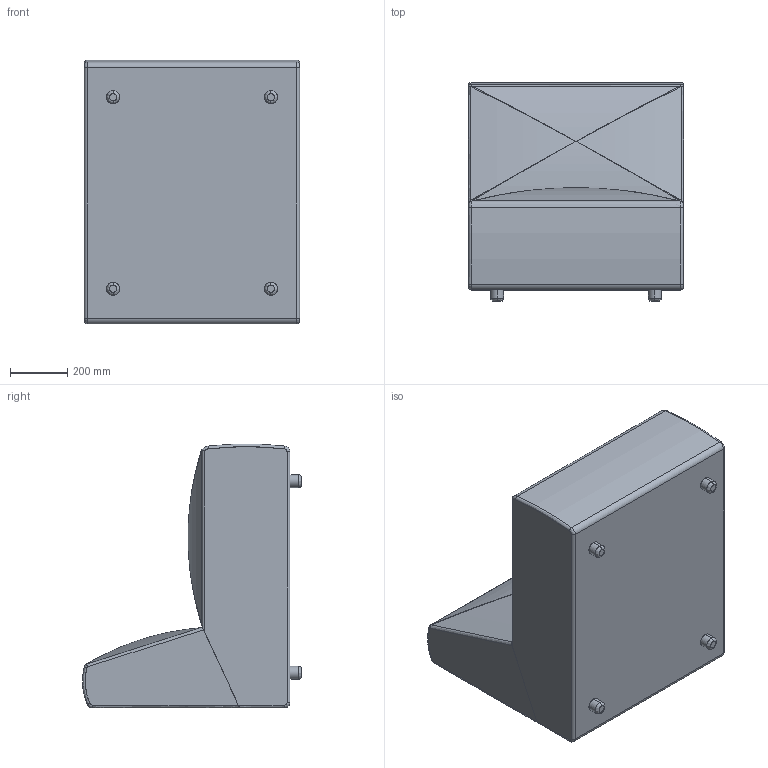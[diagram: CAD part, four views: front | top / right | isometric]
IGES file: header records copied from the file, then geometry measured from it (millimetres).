
Start section: SolidWorks IGES file using analytic representation for surfaces
Global section: file name: \\Logicserver\datos\01-VICCARBE\PRODUCTOS\53-SISTEMA\04-MODELADOS (PLANOS)\WEB\viccarbe-sistema-3D\Modulos\Modulo medio grueso.IGS; native system: SolidWorks 2013; preprocessor: SolidWorks 2013; author: bdisenyo; date: 170120.111722; units: millimetre
Bounding box: 750 x 762.5 x 919.18 mm (x, y, z)
Surface area: 3550993.6 mm2 (no closed solid volume)
Topology: 0 solids, 0 shells, 80 faces, 1038 edges, 1030 vertices
Faces by surface type: bspline 49, revolution 31
